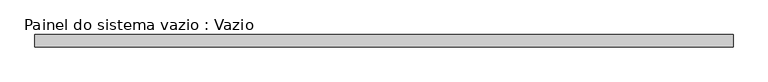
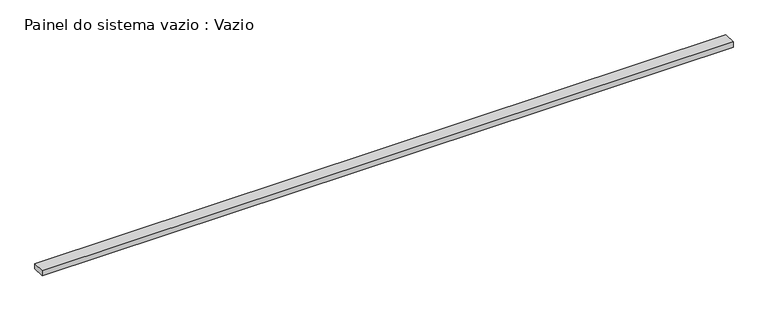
"""IFC4 building model written with IfcOpenShell, lengths in millimetres: plate geometry, Painel do sistema vazio : Vazio."""

from ifc_helpers import new_model, si_unit, origin, origin_with_axes, place, context, project, spatial, polyline, outline, extrude, source, transform, mapped, element, save


def painel_do_sistema_vazio_vazio_38e21958(model_context):
    return source(origin(), model_context, "Body", "SweptSolid", [
        extrude(outline(polyline([(2803.75, -50.0), (-2803.75, -50.0), (-2803.75, 50.0), (2803.75, 50.0), (2803.75, -50.0)])), origin_with_axes(), (0.0, 0.0, 1.0), 44.0478957),
    ])


if __name__ == "__main__":
    model = new_model("IFC4")
    model_context = context("Model", 3, world=origin())
    ifc_project = project(units=[si_unit("LENGTHUNIT", "METRE", prefix="MILLI")], contexts=[model_context])
    site = spatial("IfcSite", under=ifc_project)
    building = spatial("IfcBuilding", under=site)
    placement = place(None, origin())
    painel_do_sistema_vazio_vazio_shape = painel_do_sistema_vazio_vazio_38e21958(model_context)
    element("IfcPlate", 1, ObjectType="Painel do sistema vazio : Vazio", at=placement, inside=building, context=model_context, shape_type="MappedRepresentation", body=[
        mapped(painel_do_sistema_vazio_vazio_shape, transform((0.0, 0.0, 0.0), x_axis=(1.0, 0.0, 0.0), y_axis=(0.0, 1.0, 0.0), z_axis=(0.0, 0.0, 1.0))),
    ])
    save(model, "model.ifc")
